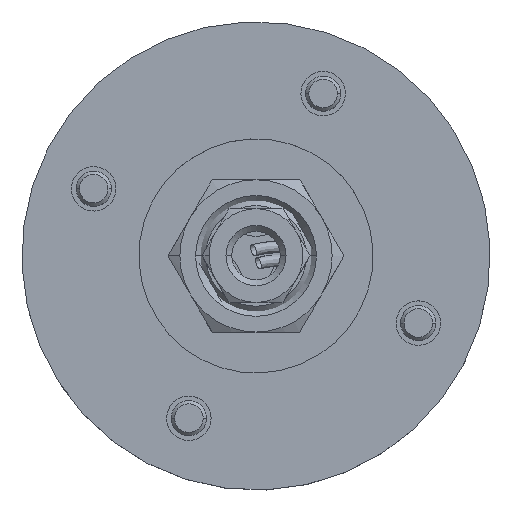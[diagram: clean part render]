
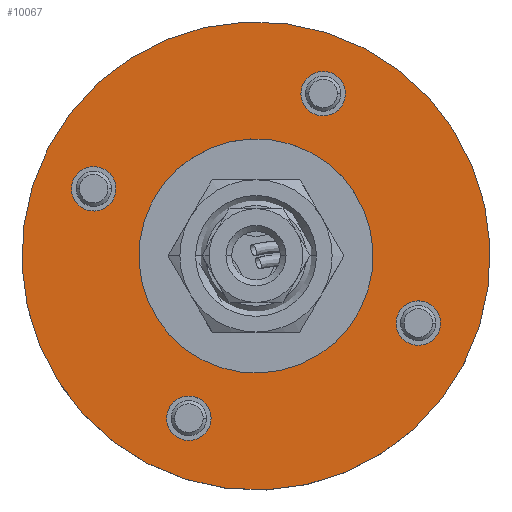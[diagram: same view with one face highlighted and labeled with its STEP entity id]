
A CAD part, top view. The second image highlights one B-rep face of the part: STEP entity #10067.
In plain terms, the highlighted planar face has unit normal (0, 0, 1).
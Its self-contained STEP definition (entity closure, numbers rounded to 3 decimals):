
#115 = CIRCLE ( 'NONE', #18884, 20. ) ;
#136 = DIRECTION ( 'NONE',  ( 0., 0., -1. ) ) ;
#141 = ORIENTED_EDGE ( 'NONE', *, *, #1111, .T. ) ;
#564 = DIRECTION ( 'NONE',  ( 0., 0., 1. ) ) ;
#660 = CARTESIAN_POINT ( 'NONE',  ( -4.55, 4.014, 87.9 ) ) ;
#849 = FACE_BOUND ( 'NONE', #19505, .T. ) ;
#1002 = EDGE_CURVE ( 'NONE', #2328, #13749, #7727, .T. ) ;
#1111 = EDGE_CURVE ( 'NONE', #13873, #2447, #15657, .T. ) ;
#1467 = AXIS2_PLACEMENT_3D ( 'NONE', #5264, #12341, #20781 ) ;
#1569 = CARTESIAN_POINT ( 'NONE',  ( 13.924, 11.675, 87.9 ) ) ;
#1755 = CIRCLE ( 'NONE', #13302, 1.9 ) ;
#2307 = CARTESIAN_POINT ( 'NONE',  ( 9.31, -1.721, 87.9 ) ) ;
#2328 = VERTEX_POINT ( 'NONE', #18994 ) ;
#2447 = VERTEX_POINT ( 'NONE', #12597 ) ;
#2476 = VERTEX_POINT ( 'NONE', #8183 ) ;
#2562 = CIRCLE ( 'NONE', #7281, 1.9 ) ;
#2630 = DIRECTION ( 'NONE',  ( -0.924, -0.383, 0. ) ) ;
#3170 = DIRECTION ( 'NONE',  ( 0., 0., -1. ) ) ;
#4232 = DIRECTION ( 'NONE',  ( 0.924, 0.383, 0. ) ) ;
#4402 = CIRCLE ( 'NONE', #18874, 10. ) ;
#4454 = CARTESIAN_POINT ( 'NONE',  ( -4.55, 4.014, 87.9 ) ) ;
#4490 = DIRECTION ( 'NONE',  ( 0., 0., -1. ) ) ;
#4564 = CARTESIAN_POINT ( 'NONE',  ( -4.55, 4.014, 87.9 ) ) ;
#4649 = EDGE_LOOP ( 'NONE', ( #22168, #17652 ) ) ;
#4808 = EDGE_CURVE ( 'NONE', #6168, #10066, #8553, .T. ) ;
#5079 = CARTESIAN_POINT ( 'NONE',  ( -10.285, -9.847, 87.9 ) ) ;
#5264 = CARTESIAN_POINT ( 'NONE',  ( -18.411, 9.749, 87.9 ) ) ;
#5296 = EDGE_LOOP ( 'NONE', ( #18447, #8473 ) ) ;
#5745 = DIRECTION ( 'NONE',  ( 0.924, 0.383, 0. ) ) ;
#5954 = AXIS2_PLACEMENT_3D ( 'NONE', #13189, #4490, #7798 ) ;
#6054 = FACE_BOUND ( 'NONE', #5296, .T. ) ;
#6168 = VERTEX_POINT ( 'NONE', #18067 ) ;
#6283 = FACE_BOUND ( 'NONE', #12031, .T. ) ;
#6933 = DIRECTION ( 'NONE',  ( -0.924, -0.383, 0. ) ) ;
#7281 = AXIS2_PLACEMENT_3D ( 'NONE', #8289, #8069, #2630 ) ;
#7554 = DIRECTION ( 'NONE',  ( -0.924, -0.383, 0. ) ) ;
#7727 = CIRCLE ( 'NONE', #20748, 1.9 ) ;
#7757 = ORIENTED_EDGE ( 'NONE', *, *, #13844, .T. ) ;
#7798 = DIRECTION ( 'NONE',  ( -0.924, -0.383, 0. ) ) ;
#8069 = DIRECTION ( 'NONE',  ( 0., 0., -1. ) ) ;
#8183 = CARTESIAN_POINT ( 'NONE',  ( -23.025, -3.647, 87.9 ) ) ;
#8191 = ORIENTED_EDGE ( 'NONE', *, *, #17169, .T. ) ;
#8289 = CARTESIAN_POINT ( 'NONE',  ( 9.31, -1.721, 87.9 ) ) ;
#8473 = ORIENTED_EDGE ( 'NONE', *, *, #19109, .T. ) ;
#8553 = CIRCLE ( 'NONE', #21224, 10. ) ;
#9160 = EDGE_LOOP ( 'NONE', ( #16738, #7757 ) ) ;
#9221 = DIRECTION ( 'NONE',  ( 0., 0., -1. ) ) ;
#9382 = VERTEX_POINT ( 'NONE', #14932 ) ;
#9454 = FACE_OUTER_BOUND ( 'NONE', #4649, .T. ) ;
#9682 = DIRECTION ( 'NONE',  ( -0.924, -0.383, 0. ) ) ;
#9892 = DIRECTION ( 'NONE',  ( 0., 0., -1. ) ) ;
#10066 = VERTEX_POINT ( 'NONE', #18501 ) ;
#10067 = ADVANCED_FACE ( 'NONE', ( #11239, #19985, #6054, #6283, #849, #9454 ), #21811, .F. ) ;
#10289 = CIRCLE ( 'NONE', #5954, 1.9 ) ;
#10354 = CARTESIAN_POINT ( 'NONE',  ( 1.184, 17.874, 87.9 ) ) ;
#10568 = DIRECTION ( 'NONE',  ( 0., 0., -1. ) ) ;
#10746 = DIRECTION ( 'NONE',  ( -0.924, -0.383, 0. ) ) ;
#10907 = CARTESIAN_POINT ( 'NONE',  ( -10.285, -9.847, 87.9 ) ) ;
#11239 = FACE_BOUND ( 'NONE', #13970, .T. ) ;
#11545 = EDGE_CURVE ( 'NONE', #12212, #21726, #10289, .T. ) ;
#11904 = AXIS2_PLACEMENT_3D ( 'NONE', #660, #21613, #7554 ) ;
#12031 = EDGE_LOOP ( 'NONE', ( #22190, #8191 ) ) ;
#12198 = DIRECTION ( 'NONE',  ( 0., 0., -1. ) ) ;
#12212 = VERTEX_POINT ( 'NONE', #22037 ) ;
#12229 = AXIS2_PLACEMENT_3D ( 'NONE', #4454, #9892, #9682 ) ;
#12341 = DIRECTION ( 'NONE',  ( 0., 0., -1. ) ) ;
#12597 = CARTESIAN_POINT ( 'NONE',  ( -20.166, 9.021, 87.9 ) ) ;
#12789 = DIRECTION ( 'NONE',  ( -0.924, -0.383, 0. ) ) ;
#13189 = CARTESIAN_POINT ( 'NONE',  ( 1.184, 17.874, 87.9 ) ) ;
#13302 = AXIS2_PLACEMENT_3D ( 'NONE', #5079, #136, #10746 ) ;
#13345 = CIRCLE ( 'NONE', #11904, 20. ) ;
#13397 = EDGE_CURVE ( 'NONE', #17017, #2476, #115, .T. ) ;
#13749 = VERTEX_POINT ( 'NONE', #20543 ) ;
#13844 = EDGE_CURVE ( 'NONE', #21726, #12212, #21830, .T. ) ;
#13873 = VERTEX_POINT ( 'NONE', #19289 ) ;
#13970 = EDGE_LOOP ( 'NONE', ( #14981, #15792 ) ) ;
#14131 = AXIS2_PLACEMENT_3D ( 'NONE', #2307, #9221, #17826 ) ;
#14932 = CARTESIAN_POINT ( 'NONE',  ( 11.065, -0.993, 87.9 ) ) ;
#14981 = ORIENTED_EDGE ( 'NONE', *, *, #4808, .F. ) ;
#15164 = CARTESIAN_POINT ( 'NONE',  ( -4.55, 4.014, 87.9 ) ) ;
#15221 = EDGE_CURVE ( 'NONE', #10066, #6168, #4402, .T. ) ;
#15246 = ORIENTED_EDGE ( 'NONE', *, *, #18923, .T. ) ;
#15657 = CIRCLE ( 'NONE', #18567, 1.9 ) ;
#15792 = ORIENTED_EDGE ( 'NONE', *, *, #15221, .F. ) ;
#15920 = CARTESIAN_POINT ( 'NONE',  ( 7.555, -2.449, 87.9 ) ) ;
#16738 = ORIENTED_EDGE ( 'NONE', *, *, #11545, .T. ) ;
#16890 = DIRECTION ( 'NONE',  ( -0.924, -0.383, 0. ) ) ;
#17017 = VERTEX_POINT ( 'NONE', #1569 ) ;
#17169 = EDGE_CURVE ( 'NONE', #13749, #2328, #1755, .T. ) ;
#17644 = CARTESIAN_POINT ( 'NONE',  ( -4.55, 4.014, 87.9 ) ) ;
#17652 = ORIENTED_EDGE ( 'NONE', *, *, #19816, .F. ) ;
#17818 = DIRECTION ( 'NONE',  ( 0., 0., -1. ) ) ;
#17826 = DIRECTION ( 'NONE',  ( -0.924, -0.383, 0. ) ) ;
#18067 = CARTESIAN_POINT ( 'NONE',  ( 4.687, 7.844, 87.9 ) ) ;
#18447 = ORIENTED_EDGE ( 'NONE', *, *, #19082, .T. ) ;
#18501 = CARTESIAN_POINT ( 'NONE',  ( -13.788, 0.183, 87.9 ) ) ;
#18541 = AXIS2_PLACEMENT_3D ( 'NONE', #10354, #10568, #20764 ) ;
#18567 = AXIS2_PLACEMENT_3D ( 'NONE', #22352, #12198, #6933 ) ;
#18628 = VERTEX_POINT ( 'NONE', #15920 ) ;
#18874 = AXIS2_PLACEMENT_3D ( 'NONE', #17644, #564, #5745 ) ;
#18884 = AXIS2_PLACEMENT_3D ( 'NONE', #15164, #3170, #16890 ) ;
#18923 = EDGE_CURVE ( 'NONE', #2447, #13873, #21010, .T. ) ;
#18994 = CARTESIAN_POINT ( 'NONE',  ( -12.04, -10.574, 87.9 ) ) ;
#19055 = CARTESIAN_POINT ( 'NONE',  ( 2.939, 18.602, 87.9 ) ) ;
#19082 = EDGE_CURVE ( 'NONE', #18628, #9382, #19945, .T. ) ;
#19109 = EDGE_CURVE ( 'NONE', #9382, #18628, #2562, .T. ) ;
#19289 = CARTESIAN_POINT ( 'NONE',  ( -16.656, 10.476, 87.9 ) ) ;
#19505 = EDGE_LOOP ( 'NONE', ( #15246, #141 ) ) ;
#19816 = EDGE_CURVE ( 'NONE', #2476, #17017, #13345, .T. ) ;
#19945 = CIRCLE ( 'NONE', #14131, 1.9 ) ;
#19985 = FACE_BOUND ( 'NONE', #9160, .T. ) ;
#20084 = DIRECTION ( 'NONE',  ( 0., 0., 1. ) ) ;
#20543 = CARTESIAN_POINT ( 'NONE',  ( -8.53, -9.119, 87.9 ) ) ;
#20748 = AXIS2_PLACEMENT_3D ( 'NONE', #10907, #17818, #12789 ) ;
#20764 = DIRECTION ( 'NONE',  ( -0.924, -0.383, 0. ) ) ;
#20781 = DIRECTION ( 'NONE',  ( -0.924, -0.383, 0. ) ) ;
#21010 = CIRCLE ( 'NONE', #1467, 1.9 ) ;
#21224 = AXIS2_PLACEMENT_3D ( 'NONE', #4564, #20084, #4232 ) ;
#21613 = DIRECTION ( 'NONE',  ( 0., 0., -1. ) ) ;
#21726 = VERTEX_POINT ( 'NONE', #19055 ) ;
#21811 = PLANE ( 'NONE',  #12229 ) ;
#21830 = CIRCLE ( 'NONE', #18541, 1.9 ) ;
#22037 = CARTESIAN_POINT ( 'NONE',  ( -0.571, 17.147, 87.9 ) ) ;
#22168 = ORIENTED_EDGE ( 'NONE', *, *, #13397, .F. ) ;
#22190 = ORIENTED_EDGE ( 'NONE', *, *, #1002, .T. ) ;
#22352 = CARTESIAN_POINT ( 'NONE',  ( -18.411, 9.749, 87.9 ) ) ;
